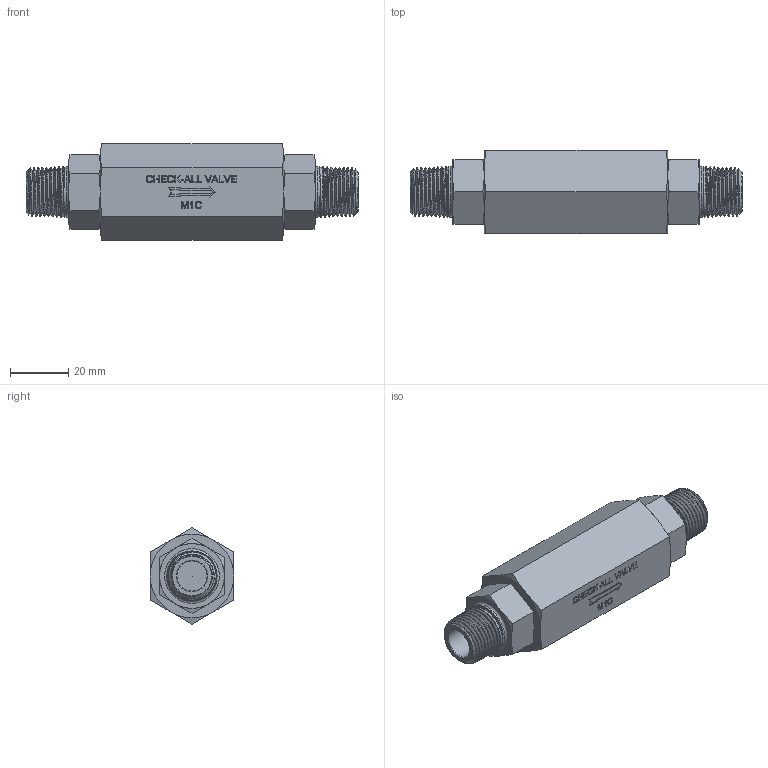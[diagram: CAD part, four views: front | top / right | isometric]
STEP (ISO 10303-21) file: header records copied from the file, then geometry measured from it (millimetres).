
FILE_DESCRIPTION( ( 'Unknown' ), '1' );
FILE_NAME( 'Y:/ENGR/3D Solid Edge Models/M(1-8)/M1/stp/M1C.stp', 'Unknown', ( 'Unknown' ), ( 'Unknown' ), 'PSStep 16.0.42', 'Unknown', ' ' );
FILE_SCHEMA( ( 'AUTOMOTIVE_DESIGN { 1 0 10303 214 1 1 1 1 }' ) );
Length unit declared in the file: millimetre
Products named in the file (1): 1
Bounding box: 113.69 x 28.57 x 33 mm (x, y, z)
Volume: 55554.8 mm3; surface area: 13217.1 mm2
Topology: 1 solids, 1 shells, 365 faces, 953 edges, 612 vertices
Faces by surface type: extrusion 138, plane 70, cylinder 54, cone 45, torus 34, bspline 24
Full cylindrical faces by diameter (mm): 10.319 x2, 17.145 x2
Entity records: 41659 total; most frequent: CARTESIAN_POINT 30108, ORIENTED_EDGE 1836, DIRECTION 1150, EDGE_CURVE 918, VERTEX_POINT 599, PRESENTATION_STYLE_ASSIGNMENT 558, COLOUR_RGB 558, B_SPLINE_CURVE_WITH_KNOTS 550
